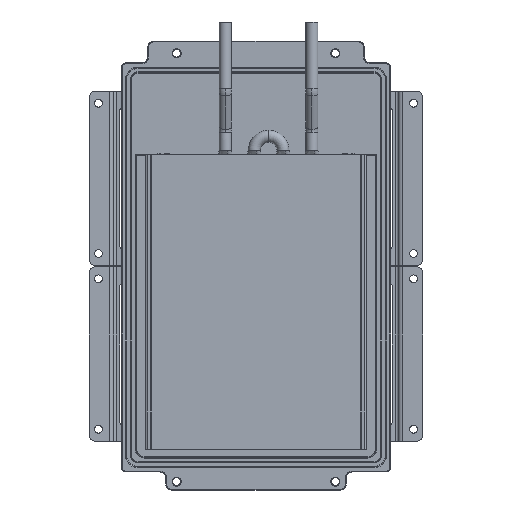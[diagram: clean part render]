
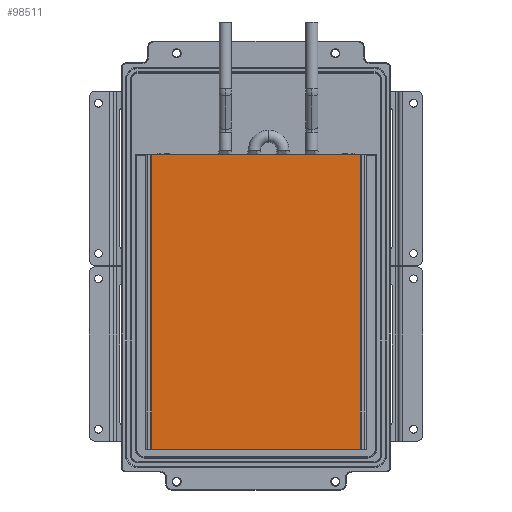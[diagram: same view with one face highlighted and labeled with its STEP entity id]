
A CAD part, front view. The second image highlights one B-rep face of the part: STEP entity #98511.
In plain terms, the highlighted planar face has unit normal (0, -1, 0).
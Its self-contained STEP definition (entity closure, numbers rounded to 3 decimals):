
#1827 = CARTESIAN_POINT ( 'NONE',  ( 89., -21., -151. ) ) ;
#3092 = EDGE_CURVE ( 'NONE', #34383, #18502, #80535, .T. ) ;
#5383 = DIRECTION ( 'NONE',  ( 1., 0., 0. ) ) ;
#7133 = CARTESIAN_POINT ( 'NONE',  ( 89., -21., -151. ) ) ;
#8525 = ORIENTED_EDGE ( 'NONE', *, *, #13050, .T. ) ;
#12841 = LINE ( 'NONE', #22699, #79017 ) ;
#13050 = EDGE_CURVE ( 'NONE', #52154, #91401, #12841, .T. ) ;
#14188 = CARTESIAN_POINT ( 'NONE',  ( 93.5, -21., -151. ) ) ;
#16537 = ORIENTED_EDGE ( 'NONE', *, *, #26837, .T. ) ;
#18502 = VERTEX_POINT ( 'NONE', #99755 ) ;
#21398 = AXIS2_PLACEMENT_3D ( 'NONE', #14188, #86058, #5383 ) ;
#22581 = CARTESIAN_POINT ( 'NONE',  ( -85., -21., 94. ) ) ;
#22699 = CARTESIAN_POINT ( 'NONE',  ( -85., -21., -151. ) ) ;
#26837 = EDGE_CURVE ( 'NONE', #18502, #52154, #87698, .T. ) ;
#30537 = DIRECTION ( 'NONE',  ( 0., 0., 1. ) ) ;
#34383 = VERTEX_POINT ( 'NONE', #96909 ) ;
#37132 = PLANE ( 'NONE',  #21398 ) ;
#37461 = ORIENTED_EDGE ( 'NONE', *, *, #46553, .F. ) ;
#38153 = FACE_OUTER_BOUND ( 'NONE', #98107, .T. ) ;
#38393 = VECTOR ( 'NONE', #71558, 1000. ) ;
#45147 = DIRECTION ( 'NONE',  ( 0., 0., -1. ) ) ;
#46553 = EDGE_CURVE ( 'NONE', #34383, #91401, #73205, .T. ) ;
#52154 = VERTEX_POINT ( 'NONE', #22581 ) ;
#64524 = CARTESIAN_POINT ( 'NONE',  ( -85., -21., -151. ) ) ;
#71558 = DIRECTION ( 'NONE',  ( -1., 0., 0. ) ) ;
#73205 = LINE ( 'NONE', #1827, #99169 ) ;
#79017 = VECTOR ( 'NONE', #45147, 1000. ) ;
#79364 = CARTESIAN_POINT ( 'NONE',  ( 93.5, -21., 94. ) ) ;
#80535 = LINE ( 'NONE', #7133, #84560 ) ;
#81742 = ORIENTED_EDGE ( 'NONE', *, *, #3092, .T. ) ;
#84560 = VECTOR ( 'NONE', #30537, 1000. ) ;
#86058 = DIRECTION ( 'NONE',  ( 0., 1., 0. ) ) ;
#87698 = LINE ( 'NONE', #79364, #38393 ) ;
#90866 = DIRECTION ( 'NONE',  ( -1., 0., 0. ) ) ;
#91401 = VERTEX_POINT ( 'NONE', #64524 ) ;
#96909 = CARTESIAN_POINT ( 'NONE',  ( 89., -21., -151. ) ) ;
#98107 = EDGE_LOOP ( 'NONE', ( #8525, #37461, #81742, #16537 ) ) ;
#98511 = ADVANCED_FACE ( 'NONE', ( #38153 ), #37132, .F. ) ;
#99169 = VECTOR ( 'NONE', #90866, 1000. ) ;
#99755 = CARTESIAN_POINT ( 'NONE',  ( 89., -21., 94. ) ) ;
